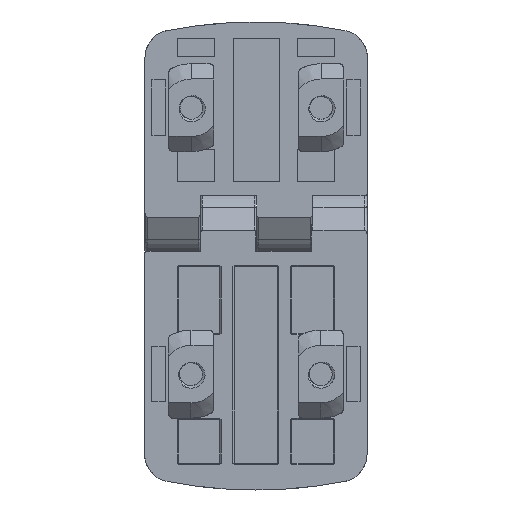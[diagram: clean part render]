
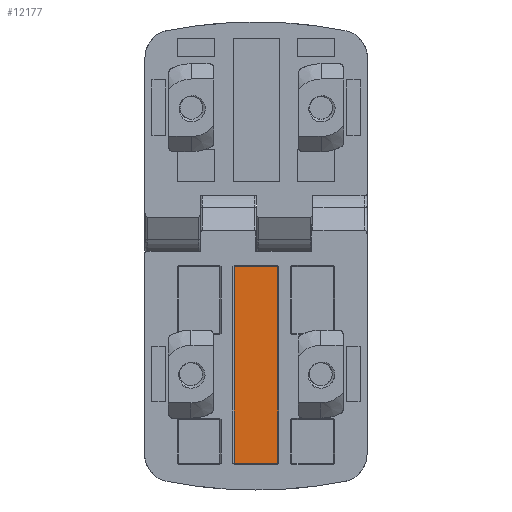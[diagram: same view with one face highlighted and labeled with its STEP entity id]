
A CAD part, front view. The second image highlights one B-rep face of the part: STEP entity #12177.
In plain terms, the highlighted planar face has unit normal (0, -1, 0).
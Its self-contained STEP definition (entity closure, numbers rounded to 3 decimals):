
#99 = EDGE_LOOP ( 'NONE', ( #13790, #5522, #1839, #1868 ) ) ;
#611 = CARTESIAN_POINT ( 'NONE',  ( 4.7, 3., -9.3 ) ) ;
#713 = EDGE_CURVE ( 'NONE', #1164, #8922, #4366, .T. ) ;
#1164 = VERTEX_POINT ( 'NONE', #15829 ) ;
#1606 = CARTESIAN_POINT ( 'NONE',  ( -4.7, 3., -51.7 ) ) ;
#1839 = ORIENTED_EDGE ( 'NONE', *, *, #9968, .T. ) ;
#1868 = ORIENTED_EDGE ( 'NONE', *, *, #16984, .T. ) ;
#2403 = DIRECTION ( 'NONE',  ( 1., 0., 0. ) ) ;
#3451 = VECTOR ( 'NONE', #18215, 1000. ) ;
#3822 = DIRECTION ( 'NONE',  ( 0., 0., -1. ) ) ;
#3977 = CARTESIAN_POINT ( 'NONE',  ( 5., 3., -51.7 ) ) ;
#4027 = CARTESIAN_POINT ( 'NONE',  ( -4.7, 3., -9. ) ) ;
#4067 = LINE ( 'NONE', #3977, #9717 ) ;
#4366 = LINE ( 'NONE', #16288, #16845 ) ;
#5522 = ORIENTED_EDGE ( 'NONE', *, *, #16178, .T. ) ;
#6083 = VECTOR ( 'NONE', #11185, 1000. ) ;
#6237 = VERTEX_POINT ( 'NONE', #11511 ) ;
#6685 = LINE ( 'NONE', #4027, #6083 ) ;
#8922 = VERTEX_POINT ( 'NONE', #611 ) ;
#9254 = LINE ( 'NONE', #15483, #3451 ) ;
#9421 = CARTESIAN_POINT ( 'NONE',  ( 5., 3., -9. ) ) ;
#9604 = FACE_OUTER_BOUND ( 'NONE', #99, .T. ) ;
#9717 = VECTOR ( 'NONE', #2403, 1000. ) ;
#9968 = EDGE_CURVE ( 'NONE', #6237, #18631, #6685, .T. ) ;
#11185 = DIRECTION ( 'NONE',  ( 0., 0., -1. ) ) ;
#11511 = CARTESIAN_POINT ( 'NONE',  ( -4.7, 3., -9.3 ) ) ;
#12177 = ADVANCED_FACE ( 'NONE', ( #9604 ), #15542, .T. ) ;
#12895 = AXIS2_PLACEMENT_3D ( 'NONE', #9421, #12916, #3822 ) ;
#12916 = DIRECTION ( 'NONE',  ( 0., -1., 0. ) ) ;
#13790 = ORIENTED_EDGE ( 'NONE', *, *, #713, .T. ) ;
#15483 = CARTESIAN_POINT ( 'NONE',  ( 5., 3., -9.3 ) ) ;
#15542 = PLANE ( 'NONE',  #12895 ) ;
#15829 = CARTESIAN_POINT ( 'NONE',  ( 4.7, 3., -51.7 ) ) ;
#16178 = EDGE_CURVE ( 'NONE', #8922, #6237, #9254, .T. ) ;
#16288 = CARTESIAN_POINT ( 'NONE',  ( 4.7, 3., -9. ) ) ;
#16845 = VECTOR ( 'NONE', #17741, 1000. ) ;
#16984 = EDGE_CURVE ( 'NONE', #18631, #1164, #4067, .T. ) ;
#17741 = DIRECTION ( 'NONE',  ( 0., 0., 1. ) ) ;
#18215 = DIRECTION ( 'NONE',  ( -1., 0., 0. ) ) ;
#18631 = VERTEX_POINT ( 'NONE', #1606 ) ;
